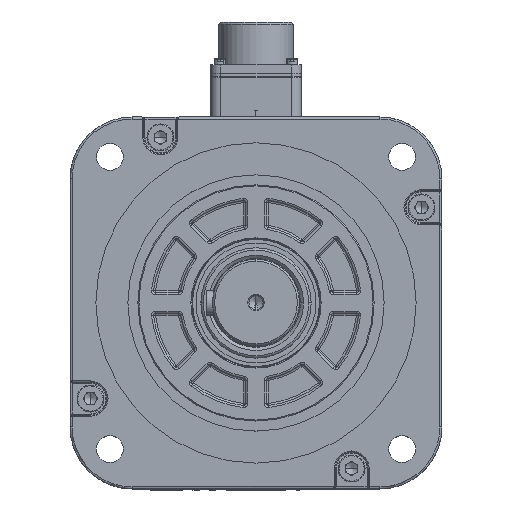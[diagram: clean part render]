
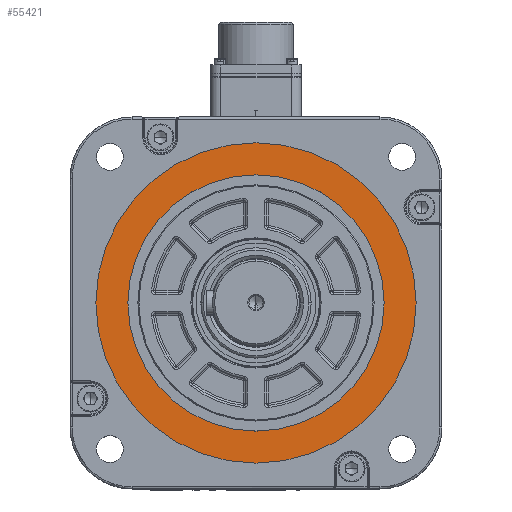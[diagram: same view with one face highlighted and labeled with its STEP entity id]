
A CAD part, top view. The second image highlights one B-rep face of the part: STEP entity #55421.
In plain terms, the highlighted planar face has unit normal (0, 0, 1) as drawn and (0, 0, -1) by its records, which use the part's own axes.
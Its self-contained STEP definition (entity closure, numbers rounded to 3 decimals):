
#889 = AXIS2_PLACEMENT_3D ( 'NONE', #107023, #33441, #9120 ) ;
#2615 = VERTEX_POINT ( 'NONE', #107820 ) ;
#8539 = FACE_OUTER_BOUND ( 'NONE', #86089, .T. ) ;
#8632 = DIRECTION ( 'NONE',  ( -1., 0., 0. ) ) ;
#9120 = DIRECTION ( 'NONE',  ( -1., 0., 0. ) ) ;
#11397 = VERTEX_POINT ( 'NONE', #120954 ) ;
#12391 = ORIENTED_EDGE ( 'NONE', *, *, #104941, .T. ) ;
#12713 = DIRECTION ( 'NONE',  ( 0., 0., -1. ) ) ;
#20398 = CIRCLE ( 'NONE', #40118, 77.5 ) ;
#29545 = DIRECTION ( 'NONE',  ( 0., 0., -1. ) ) ;
#30890 = AXIS2_PLACEMENT_3D ( 'NONE', #111625, #49945, #87464 ) ;
#31721 = CIRCLE ( 'NONE', #889, 62. ) ;
#33441 = DIRECTION ( 'NONE',  ( 0., 0., 1. ) ) ;
#40118 = AXIS2_PLACEMENT_3D ( 'NONE', #69504, #96339, #8632 ) ;
#49945 = DIRECTION ( 'NONE',  ( 0., 0., 1. ) ) ;
#51014 = PLANE ( 'NONE',  #119855 ) ;
#52067 = CARTESIAN_POINT ( 'NONE',  ( 0., 0., 1.5 ) ) ;
#55421 = ADVANCED_FACE ( 'NONE', ( #102873, #8539 ), #51014, .T. ) ;
#64645 = CARTESIAN_POINT ( 'NONE',  ( 77.5, 0., 1.5 ) ) ;
#69504 = CARTESIAN_POINT ( 'NONE',  ( 0., 0., 1.5 ) ) ;
#76968 = CIRCLE ( 'NONE', #102191, 77.5 ) ;
#86089 = EDGE_LOOP ( 'NONE', ( #88559, #12391 ) ) ;
#87464 = DIRECTION ( 'NONE',  ( -1., 0., 0. ) ) ;
#87470 = DIRECTION ( 'NONE',  ( -1., 0., 0. ) ) ;
#88559 = ORIENTED_EDGE ( 'NONE', *, *, #141581, .T. ) ;
#91255 = VERTEX_POINT ( 'NONE', #93636 ) ;
#93636 = CARTESIAN_POINT ( 'NONE',  ( 62., 0., 1.5 ) ) ;
#96339 = DIRECTION ( 'NONE',  ( 0., 0., -1. ) ) ;
#102191 = AXIS2_PLACEMENT_3D ( 'NONE', #104223, #29545, #116480 ) ;
#102201 = VERTEX_POINT ( 'NONE', #64645 ) ;
#102873 = FACE_BOUND ( 'NONE', #142481, .T. ) ;
#104223 = CARTESIAN_POINT ( 'NONE',  ( 0., 0., 1.5 ) ) ;
#104941 = EDGE_CURVE ( 'NONE', #102201, #11397, #20398, .T. ) ;
#107023 = CARTESIAN_POINT ( 'NONE',  ( 0., 0., 1.5 ) ) ;
#107820 = CARTESIAN_POINT ( 'NONE',  ( -62., 0., 1.5 ) ) ;
#111625 = CARTESIAN_POINT ( 'NONE',  ( 0., 0., 1.5 ) ) ;
#116480 = DIRECTION ( 'NONE',  ( -1., 0., 0. ) ) ;
#119855 = AXIS2_PLACEMENT_3D ( 'NONE', #52067, #12713, #87470 ) ;
#120954 = CARTESIAN_POINT ( 'NONE',  ( -77.5, 0., 1.5 ) ) ;
#135469 = EDGE_CURVE ( 'NONE', #91255, #2615, #31721, .T. ) ;
#141581 = EDGE_CURVE ( 'NONE', #11397, #102201, #76968, .T. ) ;
#142481 = EDGE_LOOP ( 'NONE', ( #146196, #148657 ) ) ;
#144891 = EDGE_CURVE ( 'NONE', #2615, #91255, #157001, .T. ) ;
#146196 = ORIENTED_EDGE ( 'NONE', *, *, #144891, .T. ) ;
#148657 = ORIENTED_EDGE ( 'NONE', *, *, #135469, .T. ) ;
#157001 = CIRCLE ( 'NONE', #30890, 62. ) ;
